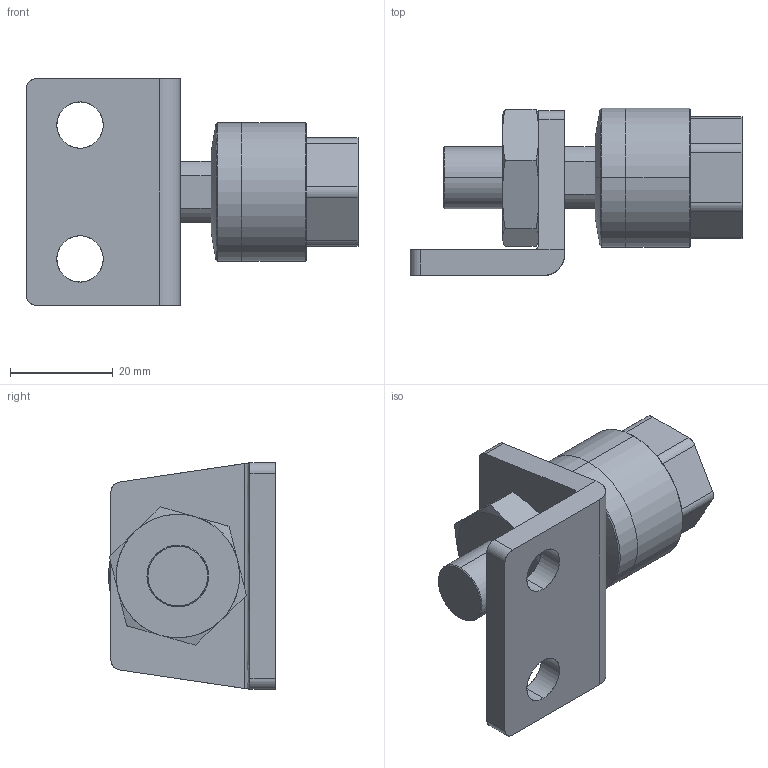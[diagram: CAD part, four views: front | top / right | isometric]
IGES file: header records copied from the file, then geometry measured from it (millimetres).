
Start section: SolidWorks IGES file using analytic representation for surfaces
Global section: file name: C:\Users\Toshiba\Desktop\FCM12A-1.25-L.IGS; native system: SolidWorks 2014; preprocessor: SolidWorks 2014; author: Toshiba; date: 160414.095745; units: millimetre
Bounding box: 64.5 x 32.5 x 44 mm (x, y, z)
Surface area: 12174.5 mm2 (no closed solid volume)
Topology: 0 solids, 0 shells, 90 faces, 1192 edges, 1190 vertices
Faces by surface type: bspline 48, revolution 42
